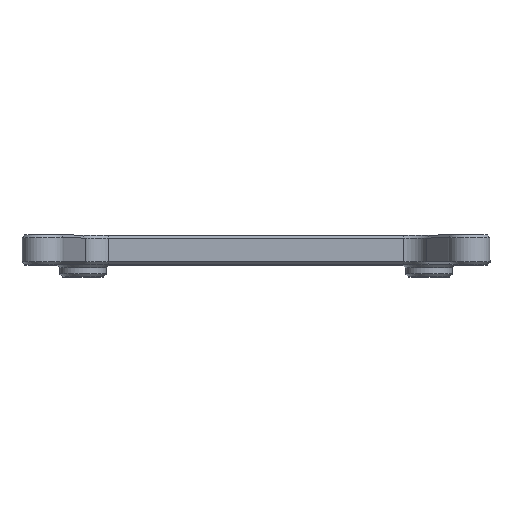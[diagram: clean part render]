
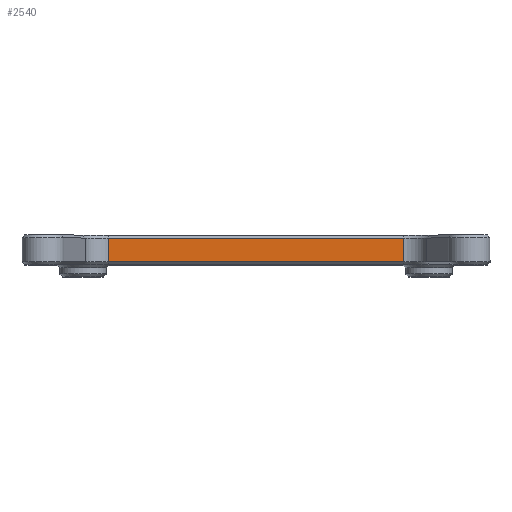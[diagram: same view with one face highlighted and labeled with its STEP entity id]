
A CAD part, top view. The second image highlights one B-rep face of the part: STEP entity #2540.
In plain terms, the highlighted planar face has unit normal (0, 0, 1).
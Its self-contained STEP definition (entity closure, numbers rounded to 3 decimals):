
#100=PLANE('',#2828);
#202=FACE_OUTER_BOUND('',#373,.T.);
#373=EDGE_LOOP('',(#1997,#1998,#1999,#2000));
#523=LINE('',#4013,#743);
#598=LINE('',#4277,#818);
#599=LINE('',#4281,#819);
#600=LINE('',#4282,#820);
#743=VECTOR('',#3159,10.);
#818=VECTOR('',#3446,10.);
#819=VECTOR('',#3451,10.);
#820=VECTOR('',#3452,10.);
#1146=VERTEX_POINT('',#4006);
#1149=VERTEX_POINT('',#4011);
#1232=VERTEX_POINT('',#4276);
#1233=VERTEX_POINT('',#4280);
#1385=EDGE_CURVE('',#1149,#1146,#523,.T.);
#1517=EDGE_CURVE('',#1146,#1232,#598,.T.);
#1519=EDGE_CURVE('',#1233,#1149,#599,.T.);
#1520=EDGE_CURVE('',#1232,#1233,#600,.T.);
#1997=ORIENTED_EDGE('',*,*,#1385,.F.);
#1998=ORIENTED_EDGE('',*,*,#1519,.F.);
#1999=ORIENTED_EDGE('',*,*,#1520,.F.);
#2000=ORIENTED_EDGE('',*,*,#1517,.F.);
#2540=ADVANCED_FACE('',(#202),#100,.T.);
#2828=AXIS2_PLACEMENT_3D('',#4279,#3449,#3450);
#3159=DIRECTION('',(-1.,0.,0.));
#3446=DIRECTION('',(0.,1.,0.));
#3449=DIRECTION('center_axis',(0.,0.,
1.));
#3450=DIRECTION('ref_axis',(-1.,0.,0.));
#3451=DIRECTION('',(0.,-1.,0.));
#3452=DIRECTION('',(1.,0.,0.));
#4006=CARTESIAN_POINT('',(-60.508,130.,-26.));
#4011=CARTESIAN_POINT('',(-10.992,130.,-26.));
#4013=CARTESIAN_POINT('',(-38.625,130.,-26.));
#4276=CARTESIAN_POINT('',(-60.508,134.,-26.));
#4277=CARTESIAN_POINT('',(-60.508,132.,-26.));
#4279=CARTESIAN_POINT('Origin',(-5.75,134.5,-26.));
#4280=CARTESIAN_POINT('',(-10.992,134.,-26.));
#4281=CARTESIAN_POINT('',(-10.992,132.,-26.));
#4282=CARTESIAN_POINT('',(-38.625,134.,-26.));
